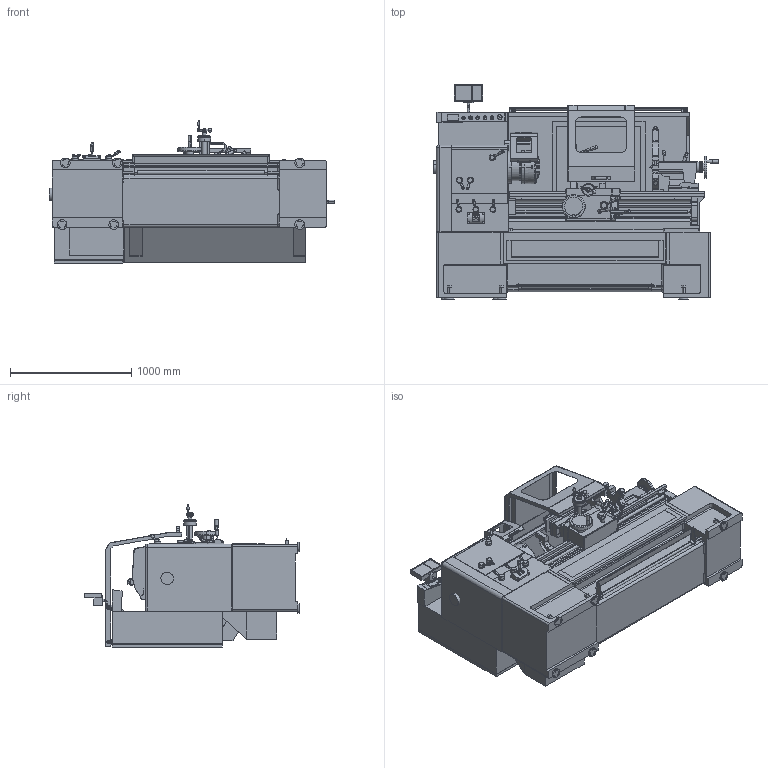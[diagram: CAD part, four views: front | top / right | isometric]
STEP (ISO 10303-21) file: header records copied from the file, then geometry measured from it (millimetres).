
FILE_DESCRIPTION (( 'STEP AP203' ), '1' );
FILE_NAME ('HML-2V.STEP', '2026-07-16T18:02:01', ( '' ), ( '' ), 'SwSTEP 2.0', 'SolidWorks 2025', '' );
FILE_SCHEMA (( 'CONFIG_CONTROL_DESIGN' ));
Products named in the file (14): Bed And Shafts 2V; Tailstock 2V; Base 2V; 3 Jaw Chuck 2V; Steady Rest 2V; HML-2V; Cross Slide & Apron 2V; Chuck Safety Guard 2V; Cabinet and Panel 2V; Digital Readout 2V; Leveling Pads 2V; Control Panel and Headstock 2V; Compound Rest & 4-way Tool Post 2V; Sliding Safety Guard 2V
Assembly tree (13 placements, depth 2):
  HML-2V
    Base 2V
    Cabinet and Panel 2V
    Sliding Safety Guard 2V
    Control Panel and Headstock 2V
    Chuck Safety Guard 2V
    3 Jaw Chuck 2V
    Tailstock 2V
    Bed And Shafts 2V
    Cross Slide & Apron 2V
    Compound Rest & 4-way Tool Post 2V
    Steady Rest 2V
    Leveling Pads 2V
    Digital Readout 2V
Bounding box: 2354.89 x 1775.6 x 1174 mm (x, y, z)
Volume: 957011566.5 mm3; surface area: 32610731.4 mm2
Topology: 33 solids, 35 shells, 7771 faces, 20462 edges, 13430 vertices
Faces by surface type: plane 4136, cylinder 1832, bspline 1290, cone 330, torus 149, sphere 34
Entity records: 410601 total; most frequent: CARTESIAN_POINT 228430, ORIENTED_EDGE 40824, DIRECTION 32003, EDGE_CURVE 20412, VERTEX_POINT 13412, VECTOR 10835, LINE 10835, AXIS2_PLACEMENT_3D 10584
